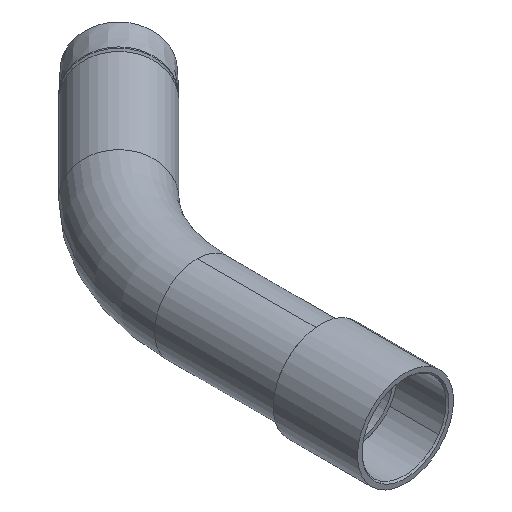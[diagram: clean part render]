
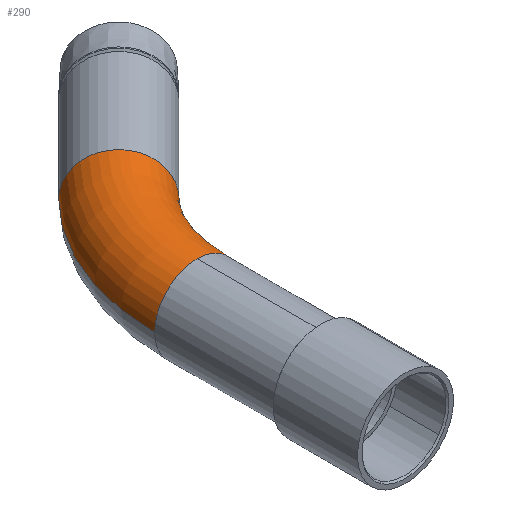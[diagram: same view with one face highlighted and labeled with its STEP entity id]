
A CAD part, isometric view. The second image highlights one B-rep face of the part: STEP entity #290.
In plain terms, the highlighted toroidal (fillet/blend) face has major radius 107.5 mm and minor radius 24.15 mm.
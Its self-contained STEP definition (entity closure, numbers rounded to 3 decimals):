
#238 = EDGE_CURVE ( 'NONE', #1666, #249, #810, .T. ) ;
#248 = EDGE_CURVE ( 'NONE', #249, #1557, #788, .T. ) ;
#249 = VERTEX_POINT ( 'NONE', #841 ) ;
#267 = EDGE_CURVE ( 'NONE', #1708, #1552, #874, .T. ) ;
#290 = ADVANCED_FACE ( 'NONE', ( #905 ), #904, .T. ) ;
#291 = EDGE_LOOP ( 'NONE', ( #292, #293, #294, #295, #296 ) ) ;
#292 = ORIENTED_EDGE ( 'NONE', *, *, #1700, .F. ) ;
#293 = ORIENTED_EDGE ( 'NONE', *, *, #238, .T. ) ;
#294 = ORIENTED_EDGE ( 'NONE', *, *, #248, .T. ) ;
#295 = ORIENTED_EDGE ( 'NONE', *, *, #1703, .T. ) ;
#296 = ORIENTED_EDGE ( 'NONE', *, *, #267, .F. ) ;
#788 = CIRCLE ( 'NONE', #845, 24.15 ) ;
#806 = DIRECTION ( 'NONE',  ( 0., 0., 1. ) ) ;
#807 = DIRECTION ( 'NONE',  ( 0., 1., 0. ) ) ;
#808 = CARTESIAN_POINT ( 'NONE',  ( 0., 90.472, 0. ) ) ;
#809 = AXIS2_PLACEMENT_3D ( 'NONE', #808, #807, #806 ) ;
#810 = CIRCLE ( 'NONE', #809, 24.15 ) ;
#841 = CARTESIAN_POINT ( 'NONE',  ( 0., 90.472, 24.15 ) ) ;
#842 = DIRECTION ( 'NONE',  ( 0., 0., 1. ) ) ;
#843 = DIRECTION ( 'NONE',  ( 0., 1., 0. ) ) ;
#844 = CARTESIAN_POINT ( 'NONE',  ( 0., 90.472, 0. ) ) ;
#845 = AXIS2_PLACEMENT_3D ( 'NONE', #844, #843, #842 ) ;
#870 = DIRECTION ( 'NONE',  ( 0., 0., 1. ) ) ;
#871 = DIRECTION ( 'NONE',  ( 0.707, 0.707, 0. ) ) ;
#872 = CARTESIAN_POINT ( 'NONE',  ( 31.486, 166.486, 0. ) ) ;
#873 = AXIS2_PLACEMENT_3D ( 'NONE', #872, #871, #870 ) ;
#874 = CIRCLE ( 'NONE', #873, 24.15 ) ;
#899 = DIRECTION ( 'NONE',  ( -1., 0., 0. ) ) ;
#900 = DIRECTION ( 'NONE',  ( 0., 0., -1. ) ) ;
#901 = CARTESIAN_POINT ( 'NONE',  ( 107.5, 90.472, 0. ) ) ;
#902 = AXIS2_PLACEMENT_3D ( 'NONE', #901, #900, #899 ) ;
#904 = TOROIDAL_SURFACE ( 'NONE', #902, 107.5, 24.15 ) ;
#905 = FACE_OUTER_BOUND ( 'NONE', #291, .T. ) ;
#951 = CARTESIAN_POINT ( 'NONE',  ( 24.15, 90.472, 0. ) ) ;
#963 = CARTESIAN_POINT ( 'NONE',  ( 48.563, 149.409, 0. ) ) ;
#1159 = CARTESIAN_POINT ( 'NONE',  ( -24.15, 90.472, 0. ) ) ;
#1192 = DIRECTION ( 'NONE',  ( -1., 0., 0. ) ) ;
#1193 = DIRECTION ( 'NONE',  ( 0., 0., -1. ) ) ;
#1194 = CARTESIAN_POINT ( 'NONE',  ( 107.5, 90.472, 0. ) ) ;
#1195 = AXIS2_PLACEMENT_3D ( 'NONE', #1194, #1193, #1192 ) ;
#1200 = CIRCLE ( 'NONE', #1195, 83.35 ) ;
#1203 = DIRECTION ( 'NONE',  ( -1., 0., 0. ) ) ;
#1204 = DIRECTION ( 'NONE',  ( 0., 0., -1. ) ) ;
#1205 = CARTESIAN_POINT ( 'NONE',  ( 107.5, 90.472, 0. ) ) ;
#1206 = AXIS2_PLACEMENT_3D ( 'NONE', #1205, #1204, #1203 ) ;
#1207 = CIRCLE ( 'NONE', #1206, 131.65 ) ;
#1236 = CARTESIAN_POINT ( 'NONE',  ( 14.409, 183.563, 0. ) ) ;
#1552 = VERTEX_POINT ( 'NONE', #963 ) ;
#1557 = VERTEX_POINT ( 'NONE', #951 ) ;
#1666 = VERTEX_POINT ( 'NONE', #1159 ) ;
#1700 = EDGE_CURVE ( 'NONE', #1666, #1708, #1207, .T. ) ;
#1703 = EDGE_CURVE ( 'NONE', #1557, #1552, #1200, .T. ) ;
#1708 = VERTEX_POINT ( 'NONE', #1236 ) ;
